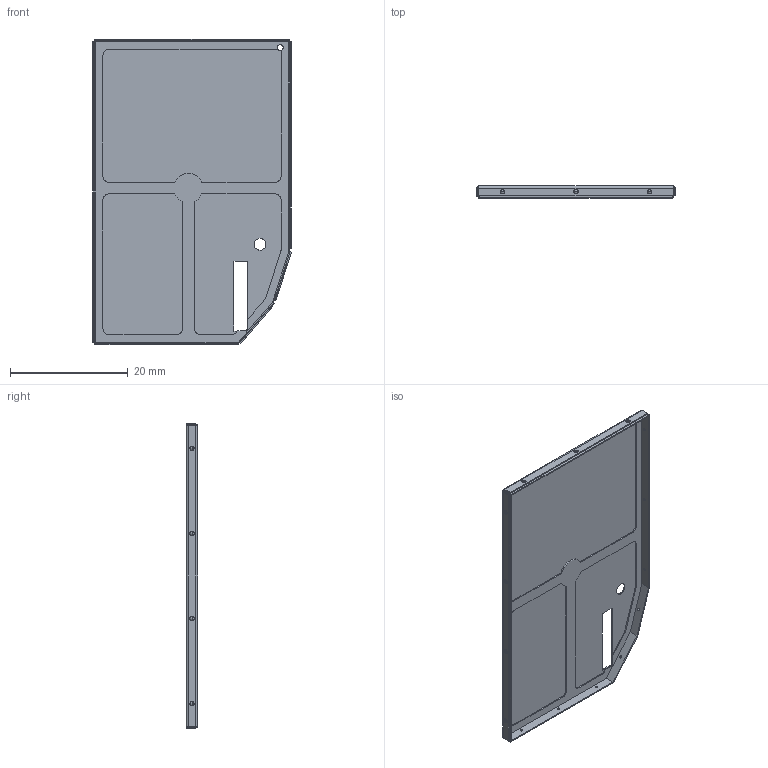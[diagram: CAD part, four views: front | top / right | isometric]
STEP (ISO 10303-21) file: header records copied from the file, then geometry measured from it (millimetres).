
FILE_DESCRIPTION((''),'2;1');
FILE_NAME('GTC01-A-MCS06-NEW-BB_ASM','2008-06-30T',('GRA'),(''),'PRO/ENGINEER BY PARAMETRIC TECHNOLOGY CORPORATION, 2006170','PRO/ENGINEER BY PARAMETRIC TECHNOLOGY CORPORATION, 2006170','');
FILE_SCHEMA(('CONFIG_CONTROL_DESIGN'));
Length unit declared in the file: millimetre
Products named in the file (3): GTC01-A-MCS06-BB-FRAME_PRT; GTC01-A-MCS07-BB-COVER_PRT; GTC01-A-MCS06-NEW-BB_ASM
Assembly tree (2 placements, depth 2):
  GTC01-A-MCS06-NEW-BB_ASM
    GTC01-A-MCS06-BB-FRAME_PRT
    GTC01-A-MCS07-BB-COVER_PRT
Bounding box: 33.72 x 2 x 51.85 mm (x, y, z)
Volume: 494.4 mm3; surface area: 5082.9 mm2
Topology: 2 solids, 2 shells, 262 faces, 678 edges, 388 vertices
Faces by surface type: plane 134, cylinder 68, sphere 60
Entity records: 7718 total; most frequent: DIRECTION 1414, CARTESIAN_POINT 1303, ORIENTED_EDGE 1236, EDGE_CURVE 618, AXIS2_PLACEMENT_3D 541, VERTEX_POINT 388, VECTOR 332, LINE 332
